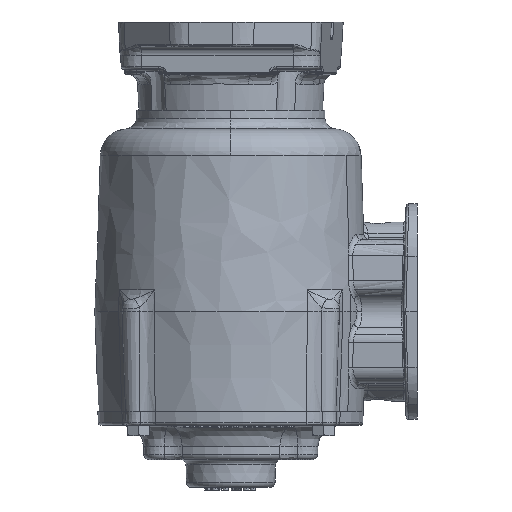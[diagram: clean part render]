
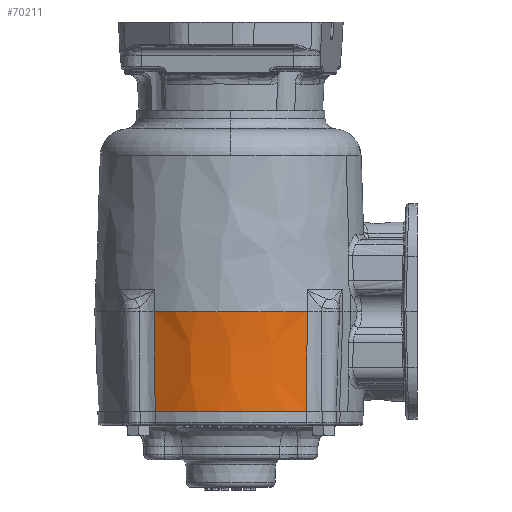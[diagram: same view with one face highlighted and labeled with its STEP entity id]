
A CAD part, left-side view. The second image highlights one B-rep face of the part: STEP entity #70211.
In plain terms, the highlighted conical face has half-angle 2 degrees and reference radius 78.232 mm.
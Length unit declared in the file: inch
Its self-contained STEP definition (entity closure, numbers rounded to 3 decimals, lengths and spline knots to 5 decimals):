
#1750 = DIRECTION ( 'NONE',  ( -0.468, -0.884, 0. ) ) ;
#2568 = CARTESIAN_POINT ( 'NONE',  ( -3.79389, 1.59322, 0. ) ) ;
#12805 = ORIENTED_EDGE ( 'NONE', *, *, #76423, .T. ) ;
#16654 = FACE_OUTER_BOUND ( 'NONE', #64454, .T. ) ;
#17827 = CARTESIAN_POINT ( 'NONE',  ( -3.7675, 1.60132, -0.75484 ) ) ;
#20487 = AXIS2_PLACEMENT_3D ( 'NONE', #83250, #75634, #39985 ) ;
#23953 = VERTEX_POINT ( 'NONE', #80461 ) ;
#24150 = CARTESIAN_POINT ( 'NONE',  ( -3.741, 5.04989, -1.50967 ) ) ;
#24747 = EDGE_CURVE ( 'NONE', #23953, #92442, #82336, .T. ) ;
#30920 = CARTESIAN_POINT ( 'NONE',  ( -1.25, 3.3296, 0. ) ) ;
#31961 = EDGE_CURVE ( 'NONE', #92442, #43726, #70647, .T. ) ;
#33351 = ORIENTED_EDGE ( 'NONE', *, *, #31961, .F. ) ;
#35300 = CONICAL_SURFACE ( 'NONE', #41357, 3.08, 0.035 ) ;
#39705 = CARTESIAN_POINT ( 'NONE',  ( -3.741, 1.60931, -1.50967 ) ) ;
#39985 = DIRECTION ( 'NONE',  ( -0.468, -0.884, 0. ) ) ;
#41357 = AXIS2_PLACEMENT_3D ( 'NONE', #30920, #59897, #52770 ) ;
#43726 = VERTEX_POINT ( 'NONE', #85283 ) ;
#45060 = VERTEX_POINT ( 'NONE', #67643 ) ;
#45099 = CARTESIAN_POINT ( 'NONE',  ( -3.79389, 5.06598, 0. ) ) ;
#45578 = CARTESIAN_POINT ( 'NONE',  ( -3.7675, 5.05788, -0.75484 ) ) ;
#51745 = CARTESIAN_POINT ( 'NONE',  ( -3.71437, 5.04203, -2.2645 ) ) ;
#52046 = CARTESIAN_POINT ( 'NONE',  ( -3.71437, 1.61717, -2.2645 ) ) ;
#52770 = DIRECTION ( 'NONE',  ( -0.468, -0.884, 0. ) ) ;
#53871 = ORIENTED_EDGE ( 'NONE', *, *, #54362, .F. ) ;
#54362 = EDGE_CURVE ( 'NONE', #45060, #23953, #57038, .T. ) ;
#57038 = B_SPLINE_CURVE_WITH_KNOTS ( 'NONE', 3,
 ( #51745, #24150, #45578, #45099 ),
 .UNSPECIFIED., .F., .F.,
 ( 4, 4 ),
 ( -7.02707, -1.27124 ),
 .UNSPECIFIED. ) ;
#59897 = DIRECTION ( 'NONE',  ( 0., 0., 1. ) ) ;
#64454 = EDGE_LOOP ( 'NONE', ( #12805, #33351, #86193, #53871 ) ) ;
#66917 = DIRECTION ( 'NONE',  ( 0., 0., 1. ) ) ;
#67643 = CARTESIAN_POINT ( 'NONE',  ( -3.71437, 5.04203, -2.2645 ) ) ;
#70211 = ADVANCED_FACE ( 'NONE', ( #16654 ), #35300, .T. ) ;
#70647 = B_SPLINE_CURVE_WITH_KNOTS ( 'NONE', 3,
 ( #2568, #17827, #39705, #52046 ),
 .UNSPECIFIED., .F., .F.,
 ( 4, 4 ),
 ( -7.19357, -1.43775 ),
 .UNSPECIFIED. ) ;
#73634 = CIRCLE ( 'NONE', #20487, 3.00092 ) ;
#75634 = DIRECTION ( 'NONE',  ( 0., 0., 1. ) ) ;
#76423 = EDGE_CURVE ( 'NONE', #45060, #43726, #73634, .T. ) ;
#80461 = CARTESIAN_POINT ( 'NONE',  ( -3.79389, 5.06598, 0. ) ) ;
#81652 = CARTESIAN_POINT ( 'NONE',  ( -1.25, 3.3296, 0. ) ) ;
#82336 = CIRCLE ( 'NONE', #88426, 3.08 ) ;
#83227 = CARTESIAN_POINT ( 'NONE',  ( -3.79389, 1.59322, 0. ) ) ;
#83250 = CARTESIAN_POINT ( 'NONE',  ( -1.25, 3.3296, -2.2645 ) ) ;
#85283 = CARTESIAN_POINT ( 'NONE',  ( -3.71437, 1.61717, -2.2645 ) ) ;
#86193 = ORIENTED_EDGE ( 'NONE', *, *, #24747, .F. ) ;
#88426 = AXIS2_PLACEMENT_3D ( 'NONE', #81652, #66917, #1750 ) ;
#92442 = VERTEX_POINT ( 'NONE', #83227 ) ;
